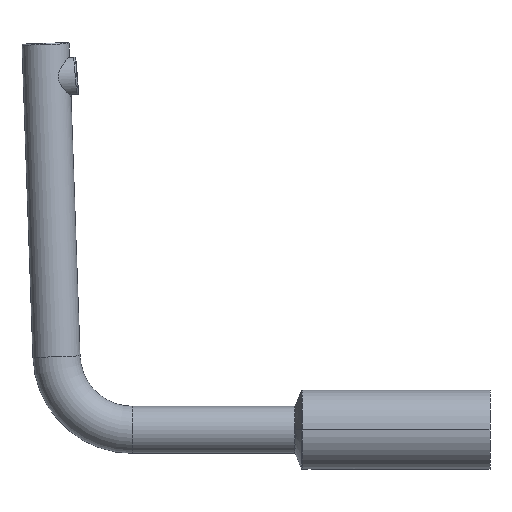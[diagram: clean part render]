
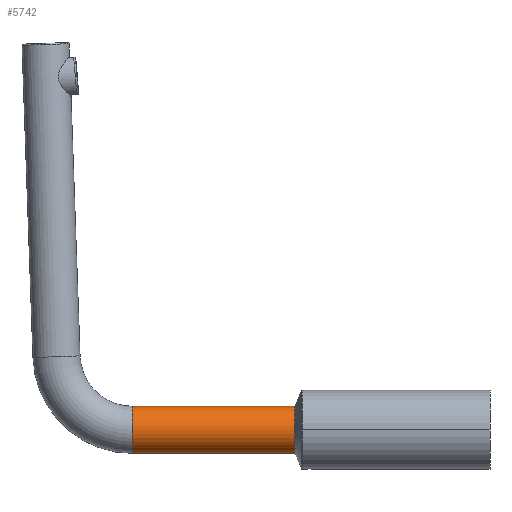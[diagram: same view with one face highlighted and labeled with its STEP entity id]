
A CAD part, left-side view. The second image highlights one B-rep face of the part: STEP entity #5742.
In plain terms, the highlighted cylindrical face has radius 14 mm (diameter 28 mm), a partial arc.
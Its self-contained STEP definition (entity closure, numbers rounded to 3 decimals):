
#5212=CARTESIAN_POINT('',(0.,212.333,0.));
#5213=DIRECTION('',(0.,-1.,0.));
#5214=DIRECTION('',(0.,0.,1.));
#5215=AXIS2_PLACEMENT_3D('',#5212,#5213,#5214);
#5237=DIRECTION('',(0.,1.,0.));
#5238=VECTOR('',#5237,96.533);
#5239=CARTESIAN_POINT('',(0.,115.8,14.));
#5240=LINE('',#5239,#5238);
#5241=DIRECTION('',(0.,1.,0.));
#5242=VECTOR('',#5241,96.533);
#5243=CARTESIAN_POINT('',(0.,115.8,-14.));
#5244=LINE('',#5243,#5242);
#5245=CARTESIAN_POINT('',(0.,115.8,0.));
#5246=DIRECTION('',(0.,1.,0.));
#5247=DIRECTION('',(0.,0.,-1.));
#5248=AXIS2_PLACEMENT_3D('',#5245,#5246,#5247);
#5345=CARTESIAN_POINT('',(0.,115.8,-14.));
#5346=CARTESIAN_POINT('',(0.,115.8,14.));
#5347=VERTEX_POINT('',#5345);
#5348=VERTEX_POINT('',#5346);
#5349=CARTESIAN_POINT('',(0.,212.333,14.));
#5350=CARTESIAN_POINT('',(0.,212.333,-14.));
#5351=VERTEX_POINT('',#5349);
#5352=VERTEX_POINT('',#5350);
#5730=CARTESIAN_POINT('',(0.,212.333,0.));
#5731=DIRECTION('',(0.,-1.,0.));
#5732=DIRECTION('',(0.,0.,1.));
#5733=AXIS2_PLACEMENT_3D('',#5730,#5731,#5732);
#5734=CYLINDRICAL_SURFACE('',#5733,14.);
#5735=ORIENTED_EDGE('',*,*,#5695,.F.);
#5736=ORIENTED_EDGE('',*,*,#5725,.F.);
#5738=ORIENTED_EDGE('',*,*,#5737,.F.);
#5739=ORIENTED_EDGE('',*,*,#5721,.T.);
#5740=EDGE_LOOP('',(#5735,#5736,#5738,#5739));
#5741=FACE_OUTER_BOUND('',#5740,.F.);
#5742=ADVANCED_FACE('',(#5741),#5734,.T.);
#5216=CIRCLE('',#5215,14.);
#5249=CIRCLE('',#5248,14.);
#5695=EDGE_CURVE('',#5351,#5352,#5216,.T.);
#5721=EDGE_CURVE('',#5347,#5352,#5244,.T.);
#5725=EDGE_CURVE('',#5348,#5351,#5240,.T.);
#5737=EDGE_CURVE('',#5347,#5348,#5249,.T.);
